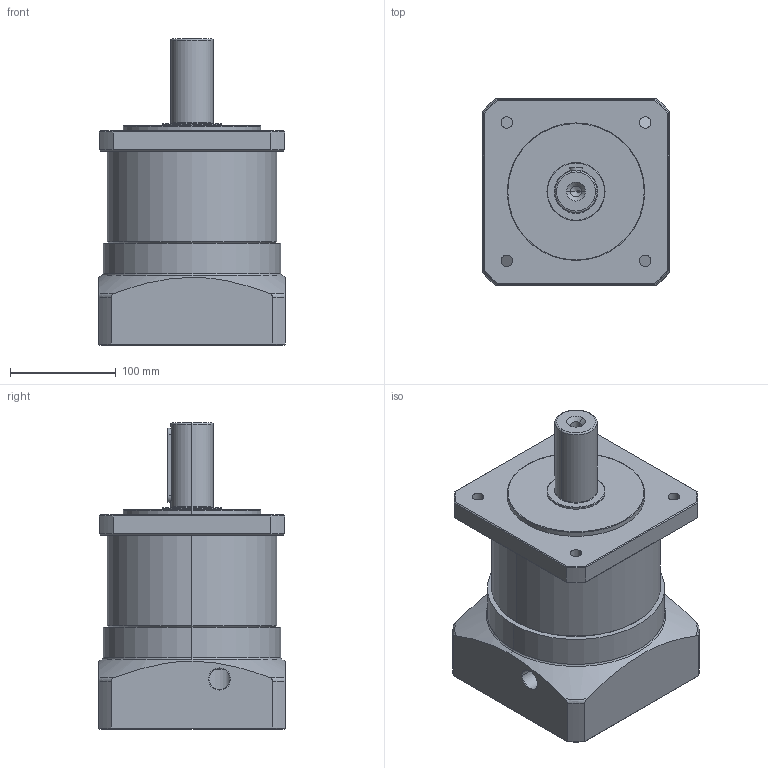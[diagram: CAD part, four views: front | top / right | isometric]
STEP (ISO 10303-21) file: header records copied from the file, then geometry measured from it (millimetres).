
FILE_DESCRIPTION (( 'STEP AP214' ), '1' );
FILE_NAME ('PF160-L1-35×80-114.3-200M12 三维零件图.STEP', '2021-08-06T06:13:06', ( 'XJJ' ), ( '' ), 'SwSTEP 2.0', 'SolidWorks 2016', '' );
FILE_SCHEMA (( 'AUTOMOTIVE_DESIGN' ));
Length unit declared in the file: millimetre
Products named in the file (3): hexagon socket head cap screws gb_GB_FASTENER_SCREWS_HSHCS M10X16-N; PF160-L1-35×80-114.3-200M12 三维外形图; PF160-L1-35×80-114.3-200M12 三维零件图
Assembly tree (2 placements, depth 2):
  PF160-L1-35×80-114.3-200M12 三维零件图
    PF160-L1-35×80-114.3-200M12 三维外形图
    hexagon socket head cap screws gb_GB_FASTENER_SCREWS_HSHCS M10X16-N
Bounding box: 176 x 176 x 289.5 mm (x, y, z)
Volume: 4634678.7 mm3; surface area: 251846.4 mm2
Topology: 2 solids, 2 shells, 193 faces, 450 edges, 266 vertices
Faces by surface type: cylinder 66, plane 54, cone 46, torus 27
Entity records: 6317 total; most frequent: CARTESIAN_POINT 1611, DIRECTION 992, ORIENTED_EDGE 876, EDGE_CURVE 438, AXIS2_PLACEMENT_3D 412, VERTEX_POINT 266, EDGE_LOOP 226, CIRCLE 214
